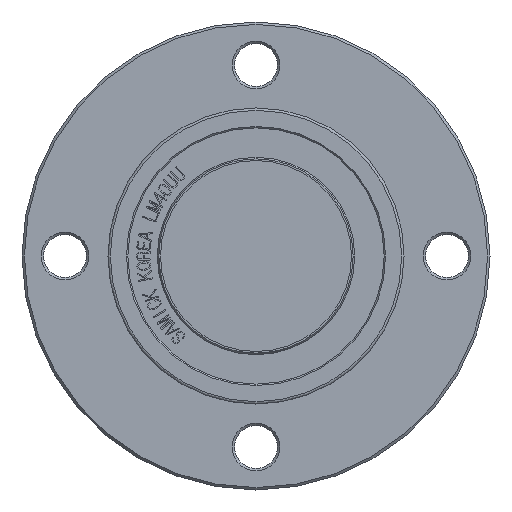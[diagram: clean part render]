
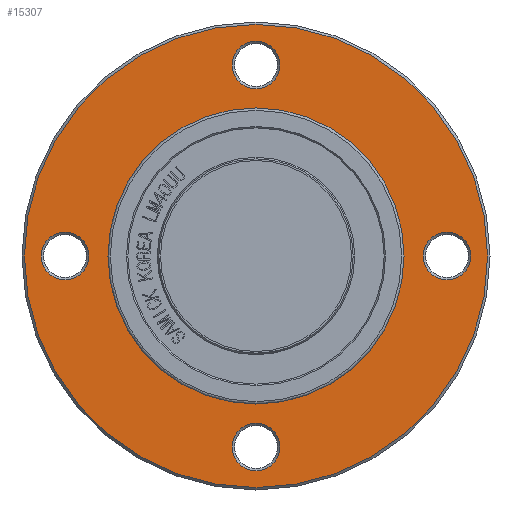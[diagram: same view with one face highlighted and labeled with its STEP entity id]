
A CAD part, front view. The second image highlights one B-rep face of the part: STEP entity #15307.
In plain terms, the highlighted planar face has unit normal (0, -1, 0).
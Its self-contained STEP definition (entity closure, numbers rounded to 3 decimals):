
#2147=FACE_BOUND('',#3305,.T.);
#2148=FACE_BOUND('',#3306,.T.);
#2149=FACE_BOUND('',#3307,.T.);
#2150=FACE_BOUND('',#3308,.T.);
#2151=FACE_BOUND('',#3309,.T.);
#2209=PLANE('',#16186);
#2454=FACE_OUTER_BOUND('',#3304,.T.);
#3304=EDGE_LOOP('',(#10566,#10567));
#3305=EDGE_LOOP('',(#10568));
#3306=EDGE_LOOP('',(#10569));
#3307=EDGE_LOOP('',(#10570,#10571));
#3308=EDGE_LOOP('',(#10572));
#3309=EDGE_LOOP('',(#10573));
#6512=CIRCLE('',#16184,5.);
#6514=CIRCLE('',#16187,48.5);
#6515=CIRCLE('',#16188,48.5);
#6516=CIRCLE('',#16189,5.);
#6517=CIRCLE('',#16190,5.);
#6518=CIRCLE('',#16191,31.);
#6519=CIRCLE('',#16192,31.);
#6520=CIRCLE('',#16193,5.);
#6594=VERTEX_POINT('',#18413);
#6596=VERTEX_POINT('',#18419);
#6597=VERTEX_POINT('',#18420);
#6598=VERTEX_POINT('',#18423);
#6599=VERTEX_POINT('',#18425);
#6600=VERTEX_POINT('',#18427);
#6601=VERTEX_POINT('',#18428);
#6602=VERTEX_POINT('',#18431);
#8184=EDGE_CURVE('',#6594,#6594,#6512,.T.);
#8187=EDGE_CURVE('',#6596,#6597,#6514,.T.);
#8188=EDGE_CURVE('',#6597,#6596,#6515,.T.);
#8189=EDGE_CURVE('',#6598,#6598,#6516,.T.);
#8190=EDGE_CURVE('',#6599,#6599,#6517,.T.);
#8191=EDGE_CURVE('',#6600,#6601,#6518,.T.);
#8192=EDGE_CURVE('',#6601,#6600,#6519,.T.);
#8193=EDGE_CURVE('',#6602,#6602,#6520,.T.);
#10566=ORIENTED_EDGE('',*,*,#8187,.T.);
#10567=ORIENTED_EDGE('',*,*,#8188,.T.);
#10568=ORIENTED_EDGE('',*,*,#8189,.F.);
#10569=ORIENTED_EDGE('',*,*,#8190,.F.);
#10570=ORIENTED_EDGE('',*,*,#8191,.F.);
#10571=ORIENTED_EDGE('',*,*,#8192,.F.);
#10572=ORIENTED_EDGE('',*,*,#8193,.F.);
#10573=ORIENTED_EDGE('',*,*,#8184,.F.);
#15307=ADVANCED_FACE('',(#2454,#2147,#2148,#2149,#2150,#2151),#2209,.T.);
#16184=AXIS2_PLACEMENT_3D('',#18414,#16559,#16560);
#16186=AXIS2_PLACEMENT_3D('',#18418,#16564,#16565);
#16187=AXIS2_PLACEMENT_3D('',#18421,#16566,#16567);
#16188=AXIS2_PLACEMENT_3D('',#18422,#16568,#16569);
#16189=AXIS2_PLACEMENT_3D('',#18424,#16570,#16571);
#16190=AXIS2_PLACEMENT_3D('',#18426,#16572,#16573);
#16191=AXIS2_PLACEMENT_3D('',#18429,#16574,#16575);
#16192=AXIS2_PLACEMENT_3D('',#18430,#16576,#16577);
#16193=AXIS2_PLACEMENT_3D('',#18432,#16578,#16579);
#16559=DIRECTION('center_axis',(0.,-1.,0.));
#16560=DIRECTION('ref_axis',(1.,0.,0.));
#16564=DIRECTION('center_axis',(0.,-1.,0.));
#16565=DIRECTION('ref_axis',(0.,0.,-1.));
#16566=DIRECTION('center_axis',(0.,-1.,0.));
#16567=DIRECTION('ref_axis',(1.,0.,0.));
#16568=DIRECTION('center_axis',(0.,-1.,0.));
#16569=DIRECTION('ref_axis',(1.,0.,0.));
#16570=DIRECTION('center_axis',(0.,-1.,0.));
#16571=DIRECTION('ref_axis',(0.,0.,
1.));
#16572=DIRECTION('center_axis',(0.,-1.,0.));
#16573=DIRECTION('ref_axis',(0.,0.,-1.));
#16574=DIRECTION('center_axis',(0.,-1.,0.));
#16575=DIRECTION('ref_axis',(1.,0.,0.));
#16576=DIRECTION('center_axis',(0.,-1.,0.));
#16577=DIRECTION('ref_axis',(1.,0.,0.));
#16578=DIRECTION('center_axis',(0.,-1.,0.));
#16579=DIRECTION('ref_axis',(-1.,0.,0.));
#18413=CARTESIAN_POINT('',(35.,51.,0.));
#18414=CARTESIAN_POINT('Origin',(40.,51.,0.));
#18418=CARTESIAN_POINT('Origin',(31.,51.,0.));
#18419=CARTESIAN_POINT('',(48.5,51.,0.));
#18420=CARTESIAN_POINT('',(-48.5,51.,0.));
#18421=CARTESIAN_POINT('Origin',(0.,51.,0.));
#18422=CARTESIAN_POINT('Origin',(0.,51.,0.));
#18423=CARTESIAN_POINT('',(0.,51.,35.));
#18424=CARTESIAN_POINT('Origin',(0.,51.,40.));
#18425=CARTESIAN_POINT('',(0.,51.,-35.));
#18426=CARTESIAN_POINT('Origin',(0.,51.,-40.));
#18427=CARTESIAN_POINT('',(31.,51.,0.));
#18428=CARTESIAN_POINT('',(-31.,51.,0.));
#18429=CARTESIAN_POINT('Origin',(0.,51.,0.));
#18430=CARTESIAN_POINT('Origin',(0.,51.,0.));
#18431=CARTESIAN_POINT('',(-35.,51.,0.));
#18432=CARTESIAN_POINT('Origin',(-40.,51.,0.));
